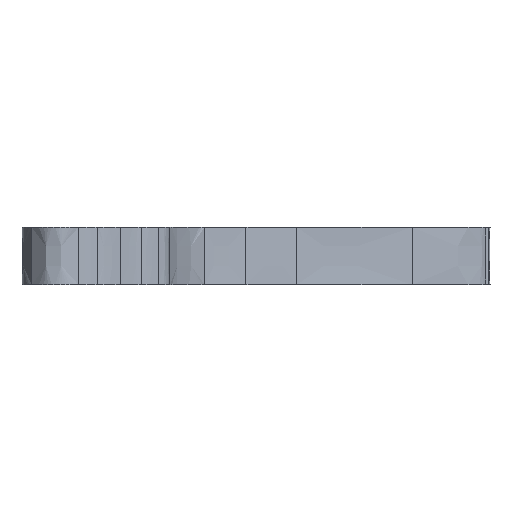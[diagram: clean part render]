
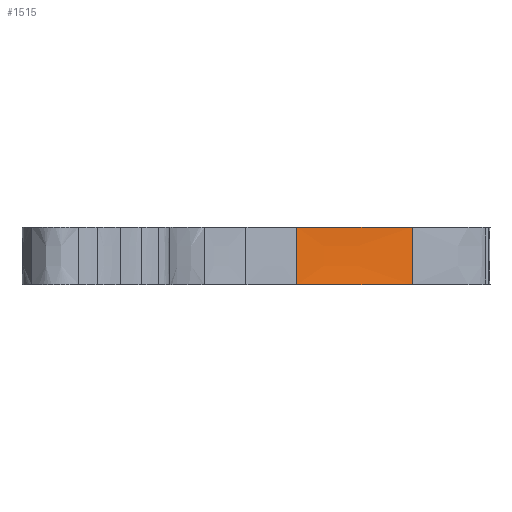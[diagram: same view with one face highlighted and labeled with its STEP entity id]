
A CAD part, left-side view. The second image highlights one B-rep face of the part: STEP entity #1515.
In plain terms, the highlighted free-form (B-spline) face has degree [3, 3] with [4, 4] control points.
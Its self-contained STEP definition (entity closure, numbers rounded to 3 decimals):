
#144=B_SPLINE_CURVE_WITH_KNOTS('',3,(#3490,#3491,#3492,#3493),
 .UNSPECIFIED.,.F.,.F.,(4,4),(0.,1.),.UNSPECIFIED.);
#145=B_SPLINE_CURVE_WITH_KNOTS('',3,(#3495,#3496,#3497,#3498),
 .UNSPECIFIED.,.F.,.F.,(4,4),(0.,1.),.UNSPECIFIED.);
#238=B_SPLINE_SURFACE_WITH_KNOTS('',3,3,((#3473,#3474,#3475,#3476),(#3477,
#3478,#3479,#3480),(#3481,#3482,#3483,#3484),(#3485,#3486,#3487,#3488)),
 .UNSPECIFIED.,.F.,.F.,.F.,(4,4),(4,4),(0.,1.),(0.,0.3),.UNSPECIFIED.);
#317=FACE_OUTER_BOUND('',#398,.T.);
#398=EDGE_LOOP('',(#1238,#1239,#1240,#1241));
#483=LINE('',#3472,#564);
#484=LINE('',#3499,#565);
#564=VECTOR('',#1628,10.);
#565=VECTOR('',#1629,10.);
#711=VERTEX_POINT('',#3462);
#712=VERTEX_POINT('',#3467);
#713=VERTEX_POINT('',#3489);
#714=VERTEX_POINT('',#3494);
#935=EDGE_CURVE('',#711,#712,#483,.T.);
#936=EDGE_CURVE('',#713,#711,#144,.T.);
#937=EDGE_CURVE('',#714,#712,#145,.T.);
#938=EDGE_CURVE('',#713,#714,#484,.T.);
#1238=ORIENTED_EDGE('',*,*,#936,.T.);
#1239=ORIENTED_EDGE('',*,*,#935,.T.);
#1240=ORIENTED_EDGE('',*,*,#937,.F.);
#1241=ORIENTED_EDGE('',*,*,#938,.F.);
#1515=ADVANCED_FACE('',(#317),#238,.T.);
#1628=DIRECTION('',(0.,0.,1.));
#1629=DIRECTION('',(0.,0.,1.));
#3462=CARTESIAN_POINT('',(14.424,23.052,0.));
#3467=CARTESIAN_POINT('',(14.424,23.052,3.));
#3472=CARTESIAN_POINT('',(14.424,23.052,0.));
#3473=CARTESIAN_POINT('Ctrl Pts',(11.304,29.041,0.));
#3474=CARTESIAN_POINT('Ctrl Pts',(11.304,29.041,1.));
#3475=CARTESIAN_POINT('Ctrl Pts',(11.304,29.041,2.));
#3476=CARTESIAN_POINT('Ctrl Pts',(11.304,29.041,3.));
#3477=CARTESIAN_POINT('Ctrl Pts',(12.185,27.487,0.));
#3478=CARTESIAN_POINT('Ctrl Pts',(12.185,27.487,1.));
#3479=CARTESIAN_POINT('Ctrl Pts',(12.185,27.487,2.));
#3480=CARTESIAN_POINT('Ctrl Pts',(12.185,27.487,3.));
#3481=CARTESIAN_POINT('Ctrl Pts',(12.566,26.755,0.));
#3482=CARTESIAN_POINT('Ctrl Pts',(12.566,26.755,1.));
#3483=CARTESIAN_POINT('Ctrl Pts',(12.566,26.755,2.));
#3484=CARTESIAN_POINT('Ctrl Pts',(12.566,26.755,3.));
#3485=CARTESIAN_POINT('Ctrl Pts',(14.424,23.052,0.));
#3486=CARTESIAN_POINT('Ctrl Pts',(14.424,23.052,1.));
#3487=CARTESIAN_POINT('Ctrl Pts',(14.424,23.052,2.));
#3488=CARTESIAN_POINT('Ctrl Pts',(14.424,23.052,3.));
#3489=CARTESIAN_POINT('',(11.304,29.041,0.));
#3490=CARTESIAN_POINT('Ctrl Pts',(11.304,29.041,0.));
#3491=CARTESIAN_POINT('Ctrl Pts',(12.185,27.487,0.));
#3492=CARTESIAN_POINT('Ctrl Pts',(12.566,26.755,0.));
#3493=CARTESIAN_POINT('Ctrl Pts',(14.424,23.052,0.));
#3494=CARTESIAN_POINT('',(11.304,29.041,3.));
#3495=CARTESIAN_POINT('Ctrl Pts',(11.304,29.041,3.));
#3496=CARTESIAN_POINT('Ctrl Pts',(12.185,27.487,3.));
#3497=CARTESIAN_POINT('Ctrl Pts',(12.566,26.755,3.));
#3498=CARTESIAN_POINT('Ctrl Pts',(14.424,23.052,3.));
#3499=CARTESIAN_POINT('',(11.304,29.041,0.));
